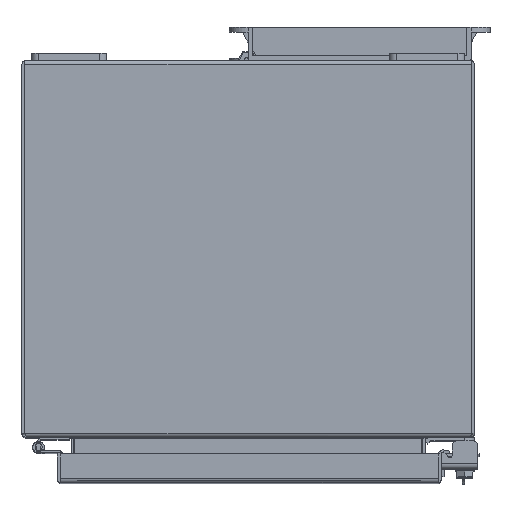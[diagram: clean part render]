
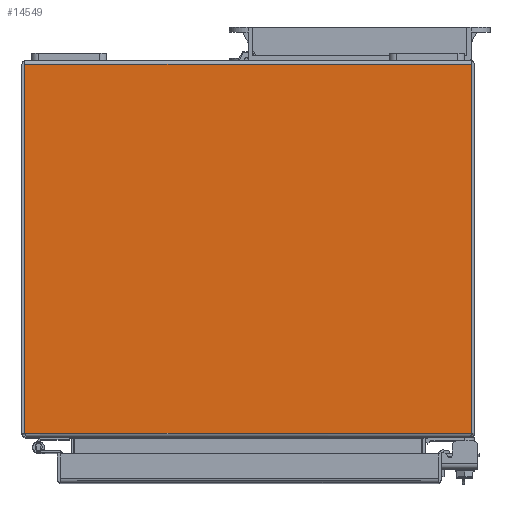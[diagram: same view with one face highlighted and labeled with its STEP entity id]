
A CAD part, top view. The second image highlights one B-rep face of the part: STEP entity #14549.
In plain terms, the highlighted planar face has unit normal (0, 0, 1).
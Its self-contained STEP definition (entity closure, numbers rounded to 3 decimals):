
#1318=LINE('',#21897,#2715);
#1322=LINE('',#21912,#2719);
#1329=LINE('',#21925,#2726);
#1331=LINE('',#21929,#2728);
#2715=VECTOR('',#17923,1000.);
#2719=VECTOR('',#17941,1000.);
#2726=VECTOR('',#17952,1000.);
#2728=VECTOR('',#17958,1000.);
#5556=ORIENTED_EDGE('',*,*,#8894,.T.);
#5557=ORIENTED_EDGE('',*,*,#8896,.T.);
#5558=ORIENTED_EDGE('',*,*,#8887,.T.);
#5559=ORIENTED_EDGE('',*,*,#8879,.T.);
#8879=EDGE_CURVE('',#10663,#10662,#1318,.T.);
#8887=EDGE_CURVE('',#10667,#10663,#1322,.T.);
#8894=EDGE_CURVE('',#10662,#10670,#1329,.T.);
#8896=EDGE_CURVE('',#10670,#10667,#1331,.T.);
#10662=VERTEX_POINT('',#21896);
#10663=VERTEX_POINT('',#21898);
#10667=VERTEX_POINT('',#21913);
#10670=VERTEX_POINT('',#21924);
#12195=EDGE_LOOP('',(#5556,#5557,#5558,#5559));
#13116=FACE_BOUND('',#12195,.T.);
#13900=PLANE('',#15692);
#14549=ADVANCED_FACE('',(#13116),#13900,.F.);
#15692=AXIS2_PLACEMENT_3D('',#21928,#17956,#17957);
#17923=DIRECTION('',(-1.,0.,0.));
#17941=DIRECTION('',(0.,1.,0.));
#17952=DIRECTION('',(0.,-1.,0.));
#17956=DIRECTION('',(0.,0.,-1.));
#17957=DIRECTION('',(0.,1.,0.));
#17958=DIRECTION('',(1.,0.,0.));
#21896=CARTESIAN_POINT('',(-150.569,-2.743,203.2));
#21897=CARTESIAN_POINT('',(149.657,-2.743,203.2));
#21898=CARTESIAN_POINT('',(150.569,-2.743,203.2));
#21912=CARTESIAN_POINT('',(150.569,-2.025,203.2));
#21913=CARTESIAN_POINT('',(150.569,-251.257,203.2));
#21924=CARTESIAN_POINT('',(-150.569,-251.257,203.2));
#21925=CARTESIAN_POINT('',(-150.569,-2.025,203.2));
#21928=CARTESIAN_POINT('',(-149.657,-2.025,203.2));
#21929=CARTESIAN_POINT('',(150.569,-251.257,203.2));
